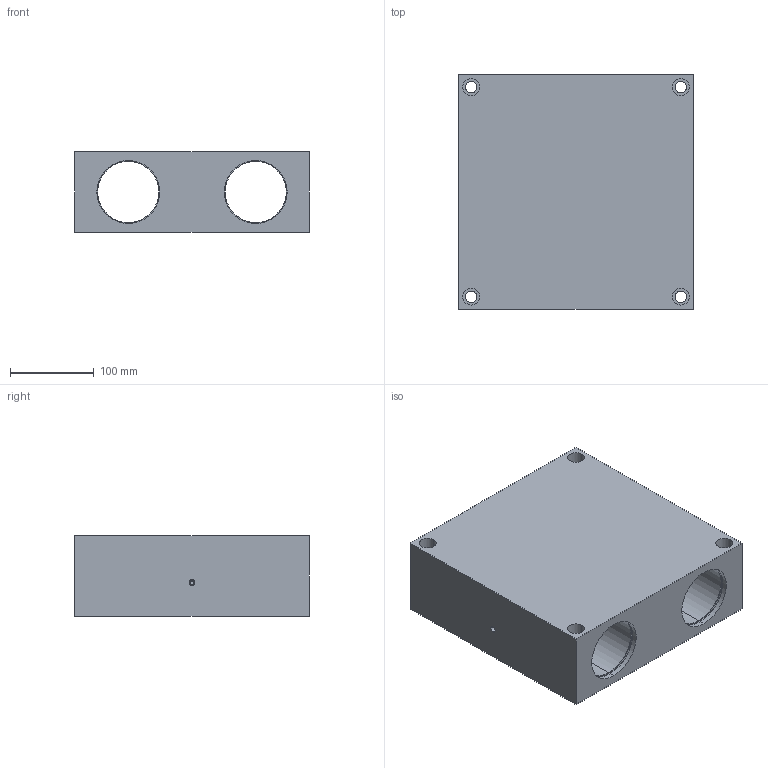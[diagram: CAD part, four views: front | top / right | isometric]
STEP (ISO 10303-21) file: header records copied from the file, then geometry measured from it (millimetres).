
FILE_DESCRIPTION (( 'STEP AP214' ), '1' );
FILE_NAME ('KQSG-50.step', '2020-03-04T13:34:39', ( '' ), ( '' ), 'SwSTEP 2.0', 'SolidWorks 2019', '' );
FILE_SCHEMA (( 'AUTOMOTIVE_DESIGN' ));
Length unit declared in the file: millimetre
Products named in the file (1): KQSG-50
Bounding box: 280 x 280 x 96 mm (x, y, z)
Volume: 5008212.6 mm3; surface area: 399421.4 mm2
Topology: 1 solids, 1 shells, 96 faces, 210 edges, 135 vertices
Faces by surface type: cylinder 62, plane 26, cone 8
Entity records: 3062 total; most frequent: CARTESIAN_POINT 558, DIRECTION 520, ORIENTED_EDGE 416, AXIS2_PLACEMENT_3D 219, EDGE_CURVE 208, VERTEX_POINT 135, EDGE_LOOP 133, CIRCLE 122
